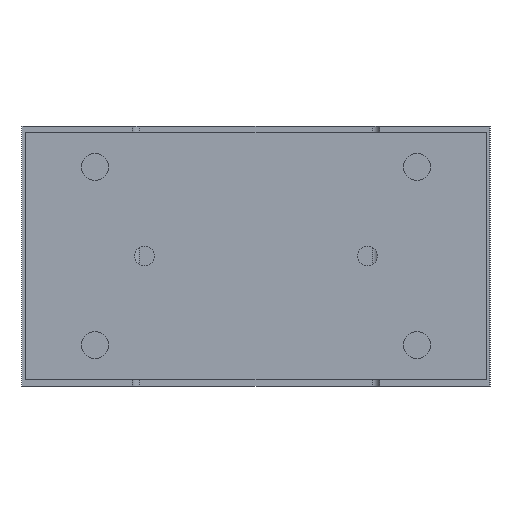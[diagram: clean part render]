
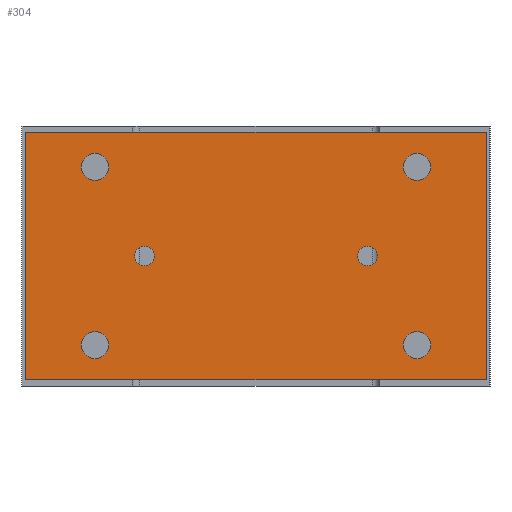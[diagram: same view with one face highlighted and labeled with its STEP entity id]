
A CAD part, left-side view. The second image highlights one B-rep face of the part: STEP entity #304.
In plain terms, the highlighted planar face has unit normal (-1, 0, 0).
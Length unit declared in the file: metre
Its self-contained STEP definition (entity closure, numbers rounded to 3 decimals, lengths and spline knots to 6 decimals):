
#304 = ADVANCED_FACE( '', ( #796, #797, #798, #799, #800, #801, #802 ), #803, .T. );
#796 = FACE_BOUND( '', #1600, .T. );
#797 = FACE_BOUND( '', #1601, .T. );
#798 = FACE_BOUND( '', #1602, .T. );
#799 = FACE_BOUND( '', #1603, .T. );
#800 = FACE_BOUND( '', #1604, .T. );
#801 = FACE_BOUND( '', #1605, .T. );
#802 = FACE_OUTER_BOUND( '', #1606, .T. );
#803 = PLANE( '', #1607 );
#1600 = EDGE_LOOP( '', ( #2505 ) );
#1601 = EDGE_LOOP( '', ( #2506 ) );
#1602 = EDGE_LOOP( '', ( #2507 ) );
#1603 = EDGE_LOOP( '', ( #2508 ) );
#1604 = EDGE_LOOP( '', ( #2509 ) );
#1605 = EDGE_LOOP( '', ( #2510 ) );
#1606 = EDGE_LOOP( '', ( #2511, #2512, #2513, #2514 ) );
#1607 = AXIS2_PLACEMENT_3D( '', #2515, #2516, #2517 );
#2505 = ORIENTED_EDGE( '', *, *, #3827, .F. );
#2506 = ORIENTED_EDGE( '', *, *, #3876, .F. );
#2507 = ORIENTED_EDGE( '', *, *, #3870, .F. );
#2508 = ORIENTED_EDGE( '', *, *, #3939, .F. );
#2509 = ORIENTED_EDGE( '', *, *, #3940, .F. );
#2510 = ORIENTED_EDGE( '', *, *, #3941, .T. );
#2511 = ORIENTED_EDGE( '', *, *, #3942, .T. );
#2512 = ORIENTED_EDGE( '', *, *, #3943, .T. );
#2513 = ORIENTED_EDGE( '', *, *, #3944, .T. );
#2514 = ORIENTED_EDGE( '', *, *, #3945, .T. );
#2515 = CARTESIAN_POINT( '', ( -0.135, 0.093, -0.1025 ) );
#2516 = DIRECTION( '', ( -1., 0., 0. ) );
#2517 = DIRECTION( '', ( 0., 0., -1. ) );
#3827 = EDGE_CURVE( '', #4401, #4401, #4402, .T. );
#3870 = EDGE_CURVE( '', #4476, #4476, #4477, .T. );
#3876 = EDGE_CURVE( '', #4486, #4486, #4487, .T. );
#3939 = EDGE_CURVE( '', #4595, #4595, #4596, .T. );
#3940 = EDGE_CURVE( '', #4597, #4597, #4598, .T. );
#3941 = EDGE_CURVE( '', #4599, #4599, #4600, .T. );
#3942 = EDGE_CURVE( '', #4601, #4602, #4603, .T. );
#3943 = EDGE_CURVE( '', #4602, #4604, #4605, .T. );
#3944 = EDGE_CURVE( '', #4604, #4606, #4607, .T. );
#3945 = EDGE_CURVE( '', #4606, #4601, #4608, .T. );
#4401 = VERTEX_POINT( '', #5242 );
#4402 = CIRCLE( '', #5243, 0.0055 );
#4476 = VERTEX_POINT( '', #5334 );
#4477 = CIRCLE( '', #5335, 0.0055 );
#4486 = VERTEX_POINT( '', #5344 );
#4487 = CIRCLE( '', #5345, 0.0055 );
#4595 = VERTEX_POINT( '', #5487 );
#4596 = CIRCLE( '', #5488, 0.0055 );
#4597 = VERTEX_POINT( '', #5489 );
#4598 = CIRCLE( '', #5490, 0.004 );
#4599 = VERTEX_POINT( '', #5491 );
#4600 = CIRCLE( '', #5492, 0.004 );
#4601 = VERTEX_POINT( '', #5493 );
#4602 = VERTEX_POINT( '', #5494 );
#4603 = LINE( '', #5495, #5496 );
#4604 = VERTEX_POINT( '', #5497 );
#4605 = LINE( '', #5498, #5499 );
#4606 = VERTEX_POINT( '', #5500 );
#4607 = LINE( '', #5501, #5502 );
#4608 = LINE( '', #5503, #5504 );
#5242 = CARTESIAN_POINT( '', ( -0.135, 0.0595, -0.0165 ) );
#5243 = AXIS2_PLACEMENT_3D( '', #6510, #6511, #6512 );
#5334 = CARTESIAN_POINT( '', ( -0.135, 0.0595, -0.0885 ) );
#5335 = AXIS2_PLACEMENT_3D( '', #6575, #6576, #6577 );
#5344 = CARTESIAN_POINT( '', ( -0.135, -0.0705, -0.0165 ) );
#5345 = AXIS2_PLACEMENT_3D( '', #6587, #6588, #6589 );
#5487 = CARTESIAN_POINT( '', ( -0.135, -0.0705, -0.0885 ) );
#5488 = AXIS2_PLACEMENT_3D( '', #6663, #6664, #6665 );
#5489 = CARTESIAN_POINT( '', ( -0.135, 0.041, -0.0525 ) );
#5490 = AXIS2_PLACEMENT_3D( '', #6666, #6667, #6668 );
#5491 = CARTESIAN_POINT( '', ( -0.135, -0.041, -0.0525 ) );
#5492 = AXIS2_PLACEMENT_3D( '', #6669, #6670, #6671 );
#5493 = CARTESIAN_POINT( '', ( -0.135, 0.093, -0.0025 ) );
#5494 = CARTESIAN_POINT( '', ( -0.135, 0.093, -0.1025 ) );
#5495 = CARTESIAN_POINT( '', ( -0.135, 0.093, -0.0025 ) );
#5496 = VECTOR( '', #6672, 1. );
#5497 = CARTESIAN_POINT( '', ( -0.135, -0.093, -0.1025 ) );
#5498 = CARTESIAN_POINT( '', ( -0.135, 0.093, -0.1025 ) );
#5499 = VECTOR( '', #6673, 1. );
#5500 = CARTESIAN_POINT( '', ( -0.135, -0.093, -0.0025 ) );
#5501 = CARTESIAN_POINT( '', ( -0.135, -0.093, -0.1025 ) );
#5502 = VECTOR( '', #6674, 1. );
#5503 = CARTESIAN_POINT( '', ( -0.135, -0.093, -0.0025 ) );
#5504 = VECTOR( '', #6675, 1. );
#6510 = CARTESIAN_POINT( '', ( -0.135, 0.065, -0.0165 ) );
#6511 = DIRECTION( '', ( -1., 0., 0. ) );
#6512 = DIRECTION( '', ( 0., -1., 0. ) );
#6575 = CARTESIAN_POINT( '', ( -0.135, 0.065, -0.0885 ) );
#6576 = DIRECTION( '', ( -1., 0., 0. ) );
#6577 = DIRECTION( '', ( 0., -1., 0. ) );
#6587 = CARTESIAN_POINT( '', ( -0.135, -0.065, -0.0165 ) );
#6588 = DIRECTION( '', ( -1., 0., 0. ) );
#6589 = DIRECTION( '', ( 0., -1., 0. ) );
#6663 = CARTESIAN_POINT( '', ( -0.135, -0.065, -0.0885 ) );
#6664 = DIRECTION( '', ( -1., 0., 0. ) );
#6665 = DIRECTION( '', ( 0., -1., 0. ) );
#6666 = CARTESIAN_POINT( '', ( -0.135, 0.045, -0.0525 ) );
#6667 = DIRECTION( '', ( -1., 0., 0. ) );
#6668 = DIRECTION( '', ( 0., -1., 0. ) );
#6669 = CARTESIAN_POINT( '', ( -0.135, -0.045, -0.0525 ) );
#6670 = DIRECTION( '', ( 1., 0., 0. ) );
#6671 = DIRECTION( '', ( 0., 1., 0. ) );
#6672 = DIRECTION( '', ( 0., 0., -1. ) );
#6673 = DIRECTION( '', ( 0., -1., 0. ) );
#6674 = DIRECTION( '', ( 0., 0., 1. ) );
#6675 = DIRECTION( '', ( 0., 1., 0. ) );
